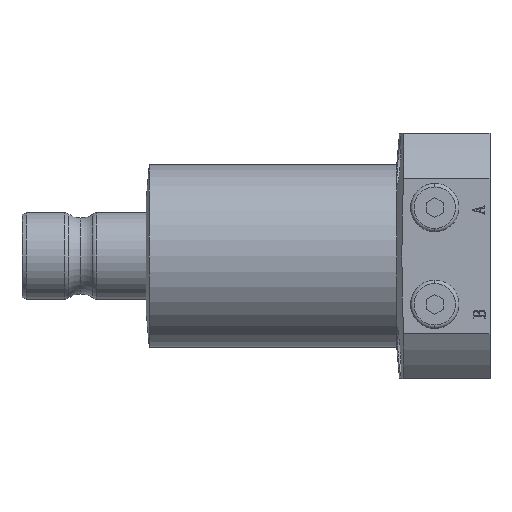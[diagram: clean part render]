
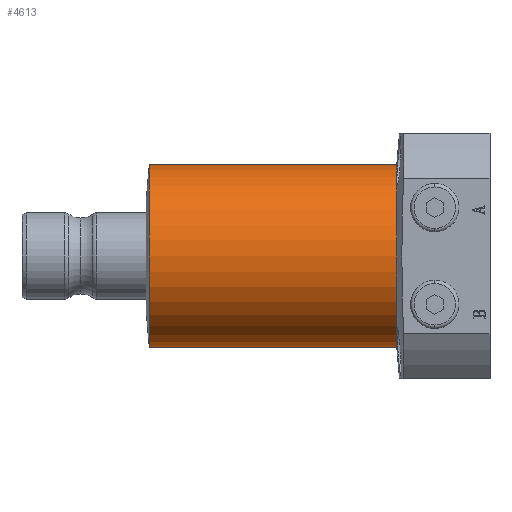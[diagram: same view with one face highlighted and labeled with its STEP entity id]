
A CAD part, left-side view. The second image highlights one B-rep face of the part: STEP entity #4613.
In plain terms, the highlighted cylindrical face has radius 26.5 mm (diameter 53 mm), a partial arc.
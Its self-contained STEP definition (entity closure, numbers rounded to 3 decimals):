
#5 = VECTOR ( 'NONE', #3930, 1000. ) ;
#175 = DIRECTION ( 'NONE',  ( 0., -1., 0. ) ) ;
#199 = CARTESIAN_POINT ( 'NONE',  ( 0., 27., 26.5 ) ) ;
#384 = EDGE_CURVE ( 'NONE', #4568, #1394, #4730, .T. ) ;
#386 = CARTESIAN_POINT ( 'NONE',  ( 0., 98.647, 0. ) ) ;
#767 = AXIS2_PLACEMENT_3D ( 'NONE', #386, #3898, #897 ) ;
#897 = DIRECTION ( 'NONE',  ( 0., 0., -1. ) ) ;
#1101 = CYLINDRICAL_SURFACE ( 'NONE', #4464, 26.5 ) ;
#1282 = EDGE_CURVE ( 'NONE', #3948, #3969, #2159, .T. ) ;
#1394 = VERTEX_POINT ( 'NONE', #4482 ) ;
#1696 = DIRECTION ( 'NONE',  ( 0., -1., 0. ) ) ;
#1882 = VECTOR ( 'NONE', #175, 1000. ) ;
#1905 = CARTESIAN_POINT ( 'NONE',  ( 0., 98.647, 26.5 ) ) ;
#1917 = CARTESIAN_POINT ( 'NONE',  ( 0., 0., -26.5 ) ) ;
#2159 = CIRCLE ( 'NONE', #767, 26.5 ) ;
#2215 = ORIENTED_EDGE ( 'NONE', *, *, #4926, .T. ) ;
#2689 = DIRECTION ( 'NONE',  ( 0., 0., -1. ) ) ;
#2895 = DIRECTION ( 'NONE',  ( 0., -1., 0. ) ) ;
#3431 = EDGE_LOOP ( 'NONE', ( #5512, #4147, #2215, #4369 ) ) ;
#3678 = CARTESIAN_POINT ( 'NONE',  ( 0., 0., 26.5 ) ) ;
#3688 = CARTESIAN_POINT ( 'NONE',  ( 0., 0., 0. ) ) ;
#3898 = DIRECTION ( 'NONE',  ( 0., -1., 0. ) ) ;
#3930 = DIRECTION ( 'NONE',  ( 0., -1., 0. ) ) ;
#3948 = VERTEX_POINT ( 'NONE', #1905 ) ;
#3969 = VERTEX_POINT ( 'NONE', #4426 ) ;
#4147 = ORIENTED_EDGE ( 'NONE', *, *, #1282, .T. ) ;
#4173 = LINE ( 'NONE', #1917, #5 ) ;
#4369 = ORIENTED_EDGE ( 'NONE', *, *, #384, .F. ) ;
#4426 = CARTESIAN_POINT ( 'NONE',  ( 0., 98.647, -26.5 ) ) ;
#4464 = AXIS2_PLACEMENT_3D ( 'NONE', #3688, #1696, #2689 ) ;
#4482 = CARTESIAN_POINT ( 'NONE',  ( 0., 27., -26.5 ) ) ;
#4495 = EDGE_CURVE ( 'NONE', #3948, #4568, #5755, .T. ) ;
#4568 = VERTEX_POINT ( 'NONE', #199 ) ;
#4606 = AXIS2_PLACEMENT_3D ( 'NONE', #5908, #2895, #6416 ) ;
#4613 = ADVANCED_FACE ( 'NONE', ( #6438 ), #1101, .T. ) ;
#4730 = CIRCLE ( 'NONE', #4606, 26.5 ) ;
#4926 = EDGE_CURVE ( 'NONE', #3969, #1394, #4173, .T. ) ;
#5512 = ORIENTED_EDGE ( 'NONE', *, *, #4495, .F. ) ;
#5755 = LINE ( 'NONE', #3678, #1882 ) ;
#5908 = CARTESIAN_POINT ( 'NONE',  ( 0., 27., 0. ) ) ;
#6416 = DIRECTION ( 'NONE',  ( 0., 0., -1. ) ) ;
#6438 = FACE_OUTER_BOUND ( 'NONE', #3431, .T. ) ;
